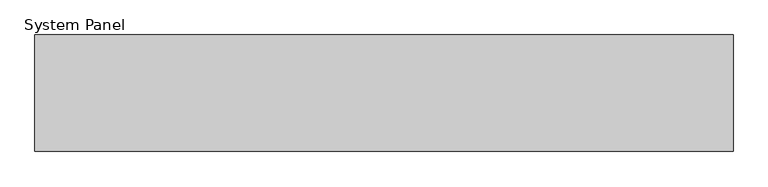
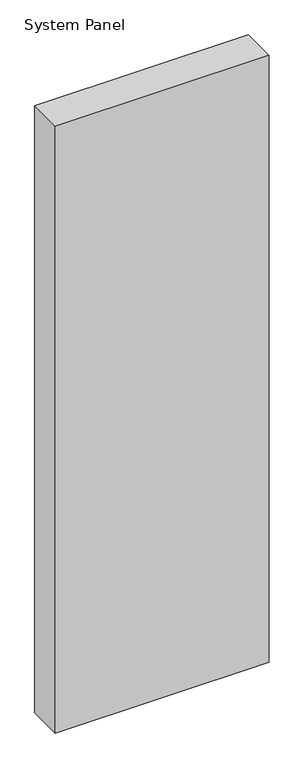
"""IFC4 building model written with IfcOpenShell, lengths in millimetres: plate geometry, System Panel : Equitilt 200mm Vertical - Plain RHEA - EPS-FR."""

import ifcopenshell
import ifcopenshell.guid

model = None  # the IFC model being written
_history = None  # IfcOwnerHistory: only IFC2X3 demands one
_inside = {}  # id of a spatial element -> (the spatial element, [elements in it])
_under = {}  # id of a project, library or spatial element -> (it, [spatial elements below it])
_declared = {}  # id of a project -> (the project, [libraries it declares])
_typed = {}  # id of a type object -> (the type object, [elements of that type])
_made_of = {}  # id of a material, layer set ... -> (it, [elements and type objects made of it])


def new_model(schema):
    """Start an empty IFC model of exactly this schema.

    Asked for "IFC4X3", IfcOpenShell would pick the latest addendum, in which some entities
    have other attributes; the version numbers below select the first issue.
    IFC2X3 requires an IfcOwnerHistory on every rooted entity: one is made here for all.
    """
    global model, _history
    if schema == "IFC4X3":
        model = ifcopenshell.file(schema_version=(4, 3, 0, 0))
    else:
        model = ifcopenshell.file(schema=schema)
    _inside.clear()
    _under.clear()
    _declared.clear()
    _typed.clear()
    _made_of.clear()
    _history = None
    if model.schema == "IFC2X3":
        org = make("IfcOrganization", Name="unknown")
        user = make(
            "IfcPersonAndOrganization",
            ThePerson=make("IfcPerson", FamilyName="unknown"),
            TheOrganization=org,
        )
        app = make(
            "IfcApplication",
            ApplicationDeveloper=org,
            Version="unknown",
            ApplicationFullName="unknown",
            ApplicationIdentifier="unknown",
        )
        _history = make(
            "IfcOwnerHistory",
            OwningUser=user,
            OwningApplication=app,
            ChangeAction="ADDED",
            CreationDate=0,
        )
    return model


def make(cls, **values):
    """One entity of the class cls with the attributes given. An attribute that is None is left unset."""
    return model.create_entity(
        cls, **{name: value for name, value in values.items() if value is not None}
    )


def rooted(cls, **values):
    """An entity with a GlobalId (a new one), such as an element, a storey or a relation."""
    return make(cls, GlobalId=ifcopenshell.guid.new(), OwnerHistory=_history, **values)


def si_unit(unit_type, name, prefix=None):
    """IfcSIUnit, for example si_unit("LENGTHUNIT", "METRE", prefix="MILLI")."""
    return make("IfcSIUnit", UnitType=unit_type, Prefix=prefix, Name=name)


def assignment(units):
    """IfcUnitAssignment: the units of a project."""
    return None if units is None else make("IfcUnitAssignment", Units=units)


def point(xyz):
    """IfcCartesianPoint."""
    return None if xyz is None else make("IfcCartesianPoint", Coordinates=xyz)


def direction(xyz):
    """IfcDirection."""
    return None if xyz is None else make("IfcDirection", DirectionRatios=xyz)


def frame(location, z_axis=None, x_axis=None):
    """IfcAxis2Placement3D, a coordinate frame: its origin and axes. An axis left out is left unset."""
    return make(
        "IfcAxis2Placement3D",
        Location=point(location),
        Axis=direction(z_axis),
        RefDirection=direction(x_axis),
    )


def origin():
    """The frame at (0, 0, 0) with its axes left unset."""
    return frame((0.0, 0.0, 0.0))


def origin_with_axes():
    """The frame at (0, 0, 0) with the z axis (0, 0, 1) and the x axis (1, 0, 0) written out."""
    return frame((0.0, 0.0, 0.0), z_axis=(0.0, 0.0, 1.0), x_axis=(1.0, 0.0, 0.0))


def place(relative_to, where):
    """IfcLocalPlacement: puts the frame where relative to a parent placement (None: the world)."""
    return make(
        "IfcLocalPlacement", PlacementRelTo=relative_to, RelativePlacement=where
    )


def context(
    kind, dimensions, precision=None, world=None, true_north=None, identifier=None
):
    """IfcGeometricRepresentationContext, for example the 3D "Model" context."""
    return make(
        "IfcGeometricRepresentationContext",
        ContextIdentifier=identifier,
        ContextType=kind,
        CoordinateSpaceDimension=dimensions,
        Precision=precision,
        WorldCoordinateSystem=world,
        TrueNorth=true_north,
    )


def project(units=None, contexts=None):
    """IfcProject with its units and contexts."""
    return rooted(
        "IfcProject",
        Name="project",
        RepresentationContexts=contexts,
        UnitsInContext=assignment(units),
    )


def spatial(cls, under=None, at=None, **own):
    """A site, building, storey or space (cls), placed at a placement, below another one or the project."""
    s = rooted(cls, ObjectPlacement=at, **own)
    if under is not None:
        _under.setdefault(under.id(), (under, []))[1].append(s)
    return s


def polyline(points):
    """IfcPolyline through the points."""
    return make("IfcPolyline", Points=[point(p) for p in points])


def outline(outer, holes=None, kind="AREA"):
    """IfcArbitraryClosedProfileDef: a profile drawn as a closed curve; with holes, ...WithVoids."""
    if holes is None:
        return make("IfcArbitraryClosedProfileDef", ProfileType=kind, OuterCurve=outer)
    return make(
        "IfcArbitraryProfileDefWithVoids",
        ProfileType=kind,
        OuterCurve=outer,
        InnerCurves=holes,
    )


def extrude(swept, where, along, depth):
    """IfcExtrudedAreaSolid: the profile swept, set in the frame where, extruded along a direction by depth."""
    return make(
        "IfcExtrudedAreaSolid",
        SweptArea=swept,
        Position=where,
        ExtrudedDirection=direction(along),
        Depth=depth,
    )


def shape(context_of_items, identifier, shape_type, items):
    """IfcShapeRepresentation: the items that make up one representation, for example the "Body"."""
    return make(
        "IfcShapeRepresentation",
        ContextOfItems=context_of_items,
        RepresentationIdentifier=identifier,
        RepresentationType=shape_type,
        Items=items,
    )


def source(mapping_origin, context_of_items, identifier, shape_type, items):
    """IfcRepresentationMap: a shape defined once, which mapped items show again and again."""
    return make(
        "IfcRepresentationMap",
        MappingOrigin=mapping_origin,
        MappedRepresentation=shape(context_of_items, identifier, shape_type, items),
    )


def transform(
    local_origin,
    x_axis=None,
    y_axis=None,
    z_axis=None,
    scale=None,
    scale2=None,
    scale3=None,
    uniform=True,
):
    """IfcCartesianTransformationOperator3D, or its non-uniform kind. x_axis, y_axis, z_axis: its Axis1, 2, 3."""
    if uniform:
        return make(
            "IfcCartesianTransformationOperator3D",
            Axis1=direction(x_axis),
            Axis2=direction(y_axis),
            LocalOrigin=point(local_origin),
            Scale=scale,
            Axis3=direction(z_axis),
        )
    return make(
        "IfcCartesianTransformationOperator3DnonUniform",
        Axis1=direction(x_axis),
        Axis2=direction(y_axis),
        LocalOrigin=point(local_origin),
        Scale=scale,
        Axis3=direction(z_axis),
        Scale2=scale2,
        Scale3=scale3,
    )


def mapped(mapping_source, mapping_target):
    """IfcMappedItem: shows the shape of a source again, moved by a transform."""
    return make(
        "IfcMappedItem", MappingSource=mapping_source, MappingTarget=mapping_target
    )


def made_of(thing, what):
    """Note that an element or type object is made of a material, layer set ...; save() writes the relation."""
    if what is not None:
        _made_of.setdefault(what.id(), (what, []))[1].append(thing)
    return thing


def element(
    cls,
    number,
    at=None,
    inside=None,
    cuts=None,
    type_object=None,
    material=None,
    context=None,
    identifier="Body",
    shape_type=None,
    held_by="IfcProductDefinitionShape",
    body=None,
    shapes=None,
    **own,
):
    """One element of the class cls, such as IfcWall. Its Tag is "e" and its number.

    at: its placement. inside: the storey or other place that contains it. cuts: it is an
    opening in that element (IfcRelVoidsElement). A single representation is given by context,
    identifier, shape_type and body (its items); several are given by shapes. held_by: the class
    of the entity that holds the representations. save() writes the other relations.
    """
    e = rooted(cls, Tag="e%d" % number, ObjectPlacement=at, **own)
    if body is not None:
        shapes = [shape(context, identifier, shape_type, body)]
    if shapes is not None:
        e.Representation = make(held_by, Representations=shapes)
    if inside is not None:
        _inside.setdefault(inside.id(), (inside, []))[1].append(e)
    if cuts is not None:
        rooted(
            "IfcRelVoidsElement", RelatingBuildingElement=cuts, RelatedOpeningElement=e
        )
    if type_object is not None:
        _typed.setdefault(type_object.id(), (type_object, []))[1].append(e)
    return made_of(e, material)


def aggregate(whole, parts):
    """IfcRelAggregates: a whole, such as a stair, and the parts it consists of."""
    return rooted("IfcRelAggregates", RelatingObject=whole, RelatedObjects=parts)


def save(model, path):
    """Write the relations noted so far, then the file.

    IfcRelAggregates (storeys below a building ...), IfcRelContainedInSpatialStructure (elements
    in a storey), IfcRelDefinesByType, IfcRelAssociatesMaterial and IfcRelDeclares: one each for
    every whole, place, type object, material and project.
    """
    for whole, parts in _under.values():
        aggregate(whole, parts)
    for where, things in _inside.values():
        rooted(
            "IfcRelContainedInSpatialStructure",
            RelatedElements=things,
            RelatingStructure=where,
        )
    for kind, things in _typed.values():
        rooted("IfcRelDefinesByType", RelatedObjects=things, RelatingType=kind)
    for what, things in _made_of.values():
        rooted("IfcRelAssociatesMaterial", RelatedObjects=things, RelatingMaterial=what)
    for by, libraries in _declared.values():
        rooted("IfcRelDeclares", RelatingContext=by, RelatedDefinitions=libraries)
    model.write(path)


def system_panel_2fc1e0e9(model_context):
    return source(origin(), model_context, "Body", "SweptSolid", [
        extrude(outline(polyline([(600.0, 0.0), (-600.0, 0.0), (-600.0, 200.0), (600.0, 200.0), (600.0, 0.0)])), origin_with_axes(), (0.0, 0.0, 1.0), 3600.0),
    ])


if __name__ == "__main__":
    model = new_model("IFC4")
    model_context = context("Model", 3, world=origin())
    ifc_project = project(units=[si_unit("LENGTHUNIT", "METRE", prefix="MILLI")], contexts=[model_context])
    site = spatial("IfcSite", under=ifc_project)
    building = spatial("IfcBuilding", under=site)
    placement = place(None, origin())
    system_panel_shape = system_panel_2fc1e0e9(model_context)
    element("IfcPlate", 1, ObjectType="System Panel : Equitilt 200mm Vertical - Plain RHEA - EPS-FR", at=placement, inside=building, context=model_context, shape_type="MappedRepresentation", body=[
        mapped(system_panel_shape, transform((0.0, 0.0, 0.0), x_axis=(1.0, 0.0, 0.0), y_axis=(0.0, 1.0, 0.0), z_axis=(0.0, 0.0, 1.0))),
    ])
    save(model, "model.ifc")
